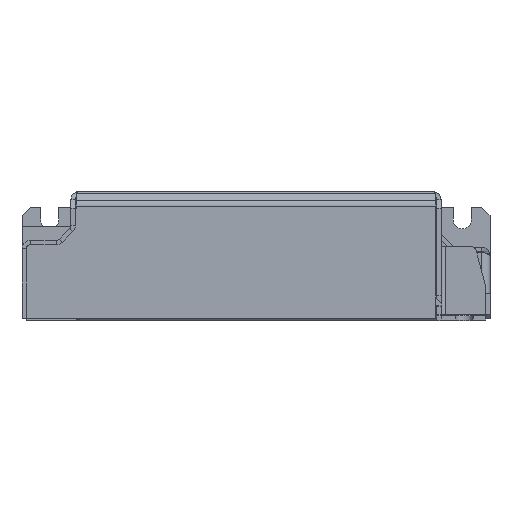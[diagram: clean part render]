
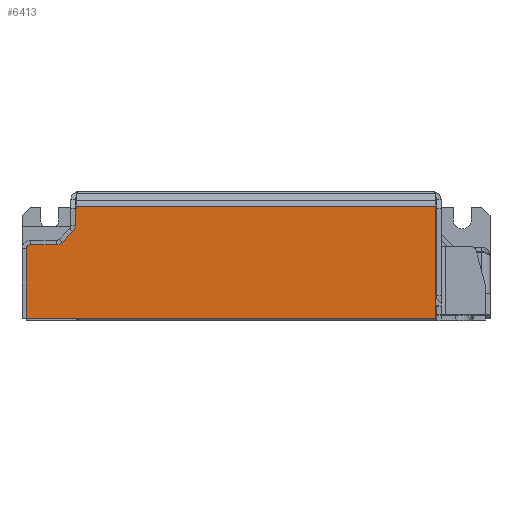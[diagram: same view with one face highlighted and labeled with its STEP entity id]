
A CAD part, top view. The second image highlights one B-rep face of the part: STEP entity #6413.
In plain terms, the highlighted planar face has unit normal (0, 0, 1).
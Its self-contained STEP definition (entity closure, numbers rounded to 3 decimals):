
#392 = AXIS2_PLACEMENT_3D ( 'NONE', #473, #472, #471 ) ;
#393 = CIRCLE ( 'NONE', #392, 1. ) ;
#471 = DIRECTION ( 'NONE',  ( 1., 0., 0. ) ) ;
#472 = DIRECTION ( 'NONE',  ( 0., 0., 1. ) ) ;
#473 = CARTESIAN_POINT ( 'NONE',  ( -53., 16.735, 37.496 ) ) ;
#514 = CARTESIAN_POINT ( 'NONE',  ( -53., 17.735, 37.496 ) ) ;
#612 = CARTESIAN_POINT ( 'NONE',  ( -54., 16.735, 37.496 ) ) ;
#727 = CARTESIAN_POINT ( 'NONE',  ( -54., 0.435, 37.496 ) ) ;
#741 = VECTOR ( 'NONE', #811, 1000. ) ;
#742 = CARTESIAN_POINT ( 'NONE',  ( -54., 16.735, 37.496 ) ) ;
#743 = LINE ( 'NONE', #742, #741 ) ;
#811 = DIRECTION ( 'NONE',  ( 0., -1., 0. ) ) ;
#966 = CARTESIAN_POINT ( 'NONE',  ( 42.3, 13.587, 37.496 ) ) ;
#985 = VECTOR ( 'NONE', #1004, 1000. ) ;
#1003 = LINE ( 'NONE', #966, #985 ) ;
#1004 = DIRECTION ( 'NONE',  ( 0., -1., 0. ) ) ;
#1023 = CARTESIAN_POINT ( 'NONE',  ( -46.914, 17.735, 37.496 ) ) ;
#1089 = CARTESIAN_POINT ( 'NONE',  ( -45.5, 18.321, 37.496 ) ) ;
#1092 = DIRECTION ( 'NONE',  ( -1., 0., 0. ) ) ;
#1093 = VECTOR ( 'NONE', #1092, 1000. ) ;
#1103 = LINE ( 'NONE', #1120, #1093 ) ;
#1120 = CARTESIAN_POINT ( 'NONE',  ( -5.75, 0.435, 37.496 ) ) ;
#1129 = CARTESIAN_POINT ( 'NONE',  ( 42.3, 0.435, 37.496 ) ) ;
#1145 = CARTESIAN_POINT ( 'NONE',  ( 42.3, 26.738, 37.496 ) ) ;
#1146 = LINE ( 'NONE', #1166, #1210 ) ;
#1148 = CARTESIAN_POINT ( 'NONE',  ( -42.3, 26.738, 37.496 ) ) ;
#1149 = DIRECTION ( 'NONE',  ( 0., 1., 0. ) ) ;
#1150 = VECTOR ( 'NONE', #1149, 1000. ) ;
#1151 = CARTESIAN_POINT ( 'NONE',  ( -42.3, 13.587, 37.496 ) ) ;
#1154 = CARTESIAN_POINT ( 'NONE',  ( -42.3, 26.235, 37.496 ) ) ;
#1166 = CARTESIAN_POINT ( 'NONE',  ( -46.914, 17.735, 37.496 ) ) ;
#1188 = DIRECTION ( 'NONE',  ( 1., 0., 0. ) ) ;
#1189 = DIRECTION ( 'NONE',  ( 0., 0., -1. ) ) ;
#1190 = CARTESIAN_POINT ( 'NONE',  ( -46.914, 19.735, 37.496 ) ) ;
#1191 = AXIS2_PLACEMENT_3D ( 'NONE', #1190, #1189, #1188 ) ;
#1192 = DIRECTION ( 'NONE',  ( -1., 0., 0. ) ) ;
#1198 = LINE ( 'NONE', #1151, #1150 ) ;
#1210 = VECTOR ( 'NONE', #1192, 1000. ) ;
#1213 = CIRCLE ( 'NONE', #1191, 2. ) ;
#1219 = DIRECTION ( 'NONE',  ( -1., 0., 0. ) ) ;
#1220 = VECTOR ( 'NONE', #1219, 1000. ) ;
#1221 = CARTESIAN_POINT ( 'NONE',  ( -42.5, 26.235, 37.496 ) ) ;
#1222 = LINE ( 'NONE', #1221, #1220 ) ;
#1223 = DIRECTION ( 'NONE',  ( -0.707, -0.707, 0. ) ) ;
#1224 = VECTOR ( 'NONE', #1223, 1000. ) ;
#1226 = CARTESIAN_POINT ( 'NONE',  ( -43.086, 20.735, 37.496 ) ) ;
#1227 = LINE ( 'NONE', #1226, #1224 ) ;
#1271 = CARTESIAN_POINT ( 'NONE',  ( -42.5, 26.235, 37.496 ) ) ;
#1352 = CARTESIAN_POINT ( 'NONE',  ( -43.086, 20.735, 37.496 ) ) ;
#1354 = DIRECTION ( 'NONE',  ( 0., -1., 0. ) ) ;
#1355 = VECTOR ( 'NONE', #1354, 1000. ) ;
#1356 = CARTESIAN_POINT ( 'NONE',  ( -42.5, 26.235, 37.496 ) ) ;
#1357 = LINE ( 'NONE', #1356, #1355 ) ;
#1360 = CARTESIAN_POINT ( 'NONE',  ( -44.5, 22.149, 37.496 ) ) ;
#1361 = AXIS2_PLACEMENT_3D ( 'NONE', #1360, #1430, #1429 ) ;
#1396 = CIRCLE ( 'NONE', #1361, 2. ) ;
#1427 = CARTESIAN_POINT ( 'NONE',  ( -42.5, 22.149, 37.496 ) ) ;
#1429 = DIRECTION ( 'NONE',  ( 1., 0., 0. ) ) ;
#1430 = DIRECTION ( 'NONE',  ( 0., 0., -1. ) ) ;
#1447 = DIRECTION ( 'NONE',  ( 0., 0., -1. ) ) ;
#1448 = CARTESIAN_POINT ( 'NONE',  ( -53.8, 0.435, 37.496 ) ) ;
#1467 = DIRECTION ( 'NONE',  ( -1., 0., 0. ) ) ;
#1494 = PLANE ( 'NONE',  #1506 ) ;
#1505 = DIRECTION ( 'NONE',  ( 0., 1., 0. ) ) ;
#1506 = AXIS2_PLACEMENT_3D ( 'NONE', #1448, #1447, #1505 ) ;
#1513 = VECTOR ( 'NONE', #1467, 1000. ) ;
#1523 = FACE_OUTER_BOUND ( 'NONE', #6393, .T. ) ;
#1525 = CARTESIAN_POINT ( 'NONE',  ( 0., 26.738, 37.496 ) ) ;
#1547 = LINE ( 'NONE', #1525, #1513 ) ;
#5880 = VERTEX_POINT ( 'NONE', #514 ) ;
#5884 = EDGE_CURVE ( 'NONE', #5880, #5931, #393, .T. ) ;
#5931 = VERTEX_POINT ( 'NONE', #612 ) ;
#6001 = VERTEX_POINT ( 'NONE', #727 ) ;
#6003 = EDGE_CURVE ( 'NONE', #5931, #6001, #743, .T. ) ;
#6121 = EDGE_CURVE ( 'NONE', #6227, #6258, #1003, .T. ) ;
#6162 = VERTEX_POINT ( 'NONE', #1023 ) ;
#6194 = VERTEX_POINT ( 'NONE', #1089 ) ;
#6202 = EDGE_CURVE ( 'NONE', #6258, #6001, #1103, .T. ) ;
#6214 = EDGE_CURVE ( 'NONE', #6162, #5880, #1146, .T. ) ;
#6227 = VERTEX_POINT ( 'NONE', #1145 ) ;
#6228 = VERTEX_POINT ( 'NONE', #1154 ) ;
#6233 = EDGE_CURVE ( 'NONE', #6228, #6234, #1198, .T. ) ;
#6234 = VERTEX_POINT ( 'NONE', #1148 ) ;
#6244 = EDGE_CURVE ( 'NONE', #6194, #6162, #1213, .T. ) ;
#6258 = VERTEX_POINT ( 'NONE', #1129 ) ;
#6295 = ORIENTED_EDGE ( 'NONE', *, *, #6202, .F. ) ;
#6296 = ORIENTED_EDGE ( 'NONE', *, *, #6003, .T. ) ;
#6297 = ORIENTED_EDGE ( 'NONE', *, *, #6244, .T. ) ;
#6298 = ORIENTED_EDGE ( 'NONE', *, *, #5884, .T. ) ;
#6299 = ORIENTED_EDGE ( 'NONE', *, *, #6214, .T. ) ;
#6300 = ORIENTED_EDGE ( 'NONE', *, *, #6368, .T. ) ;
#6301 = EDGE_CURVE ( 'NONE', #6354, #6194, #1227, .T. ) ;
#6302 = ORIENTED_EDGE ( 'NONE', *, *, #6303, .T. ) ;
#6303 = EDGE_CURVE ( 'NONE', #6228, #6304, #1222, .T. ) ;
#6304 = VERTEX_POINT ( 'NONE', #1271 ) ;
#6319 = ORIENTED_EDGE ( 'NONE', *, *, #6233, .F. ) ;
#6354 = VERTEX_POINT ( 'NONE', #1352 ) ;
#6366 = ORIENTED_EDGE ( 'NONE', *, *, #6369, .T. ) ;
#6367 = ORIENTED_EDGE ( 'NONE', *, *, #6301, .T. ) ;
#6368 = EDGE_CURVE ( 'NONE', #6304, #6372, #1357, .T. ) ;
#6369 = EDGE_CURVE ( 'NONE', #6372, #6354, #1396, .T. ) ;
#6372 = VERTEX_POINT ( 'NONE', #1427 ) ;
#6393 = EDGE_LOOP ( 'NONE', ( #6319, #6302, #6300, #6366, #6367, #6297, #6299, #6298, #6296, #6295, #6408, #6405 ) ) ;
#6405 = ORIENTED_EDGE ( 'NONE', *, *, #6406, .T. ) ;
#6406 = EDGE_CURVE ( 'NONE', #6227, #6234, #1547, .T. ) ;
#6408 = ORIENTED_EDGE ( 'NONE', *, *, #6121, .F. ) ;
#6413 = ADVANCED_FACE ( 'NONE', ( #1523 ), #1494, .F. ) ;
